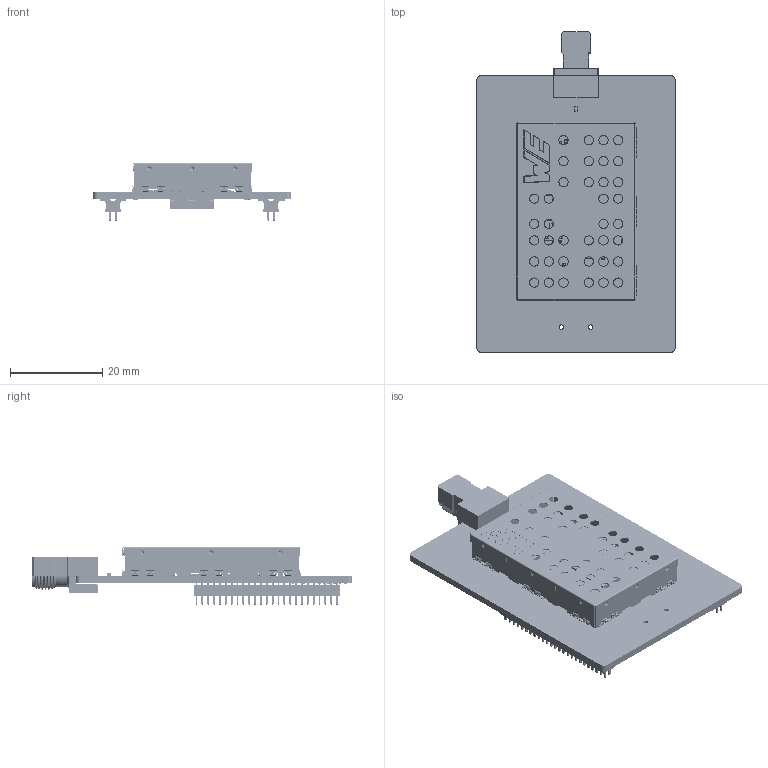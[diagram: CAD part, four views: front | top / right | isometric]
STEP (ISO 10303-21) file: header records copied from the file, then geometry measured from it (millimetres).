
FILE_DESCRIPTION(('Open CASCADE Model'),'2;1');
FILE_NAME('Open CASCADE Shape Model','2024-10-25T18:37:47',('Author'),( 'Open CASCADE'),'Open CASCADE STEP processor 7.5','Open CASCADE 7.5' ,'Unknown');
FILE_SCHEMA(('AUTOMOTIVE_DESIGN { 1 0 10303 214 1 1 1 1 }'));
Length unit declared in the file: millimetre
Products named in the file (135): PCB; Board; Open CASCADE STEP translator 7.5 1.1.1; SB1; R0201; 6950321952; Extruded; SB7; R0402; 6948923840; Cover1; Download_STP_WE-SHC-3600637250S (rev1) (1); SC9; 36900000; SC10; SC8; SC7; SC6; SC5; SC4; SC3; SC2; SC1; Frame1; 3610637256S; C14; C0402; 6950321312; U2; 6948923600; L1; 6950320912; C35; 6950318272; C31; L21; C40; C7; C3; L20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
Assembly tree (248 placements, depth 4):
  PCB
    Board
      Open CASCADE STEP translator 7.5 1.1.1
    SB1
      R0201
      6950321952
        Extruded
    SB7
      R0402
      6948923840
        Extruded
    Cover1
      Download_STP_WE-SHC-3600637250S (rev1) (1)
    SC9
      36900000
    SC10
      36900000
    SC8
      36900000
    SC7
      36900000
    SC6
      36900000
    SC5
      36900000
    SC4
      36900000
    SC3
      36900000
    SC2
      36900000
    SC1
      36900000
    Frame1
      3610637256S
    C14
      C0402
      6950321312
        Extruded
    U2
      6948923600
        Extruded
    L1
      6950321312
        Extruded
      6950320912
        Extruded
    C35
      C0402
      6950318272
        Extruded
    C31
      C0402
      6950321312
        Extruded
    L21
      6950321312
        Extruded
      6950320912
        Extruded
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Bounding box: 43 x 69.55 x 12.58 mm (x, y, z)
Volume: 6011.1 mm3; surface area: 14242.4 mm2
Topology: 178 solids, 178 shells, 11333 faces, 28690 edges, 17329 vertices
Faces by surface type: plane 5551, cylinder 3379, bspline 1387, sphere 599, revolution 248, torus 163, cone 6
Full cylindrical faces by diameter (mm): 0.5 x2, 0.991 x1, 1 x14, 2 x38, 4.674 x1, 5.08 x1, 5.385 x1
Entity records: 101403 total; most frequent: CARTESIAN_POINT 21742, ORIENTED_EDGE 14416, DIRECTION 13506, EDGE_CURVE 7208, LINE 5428, VECTOR 5428, VERTEX_POINT 4629, AXIS2_PLACEMENT_3D 4027
